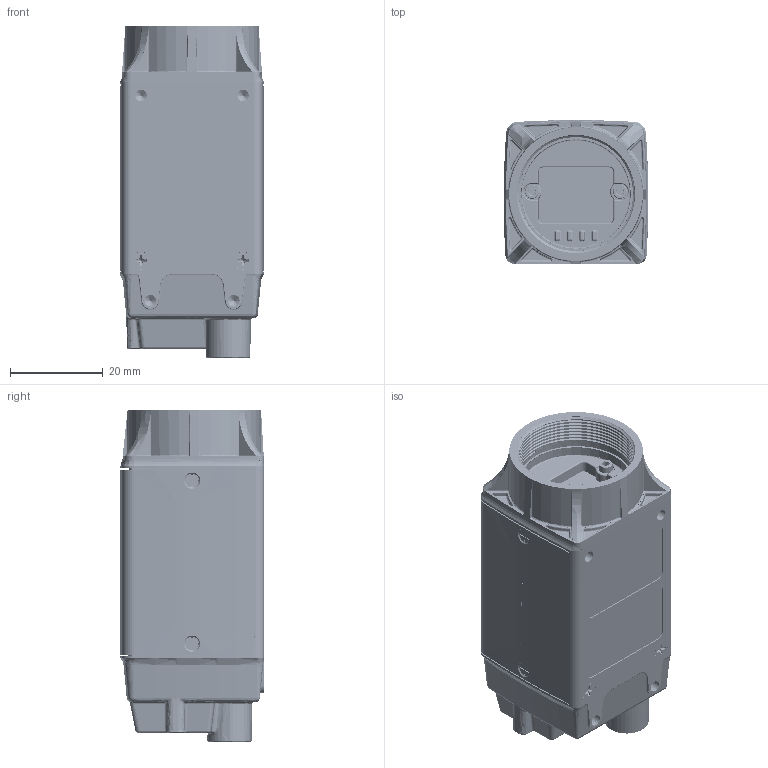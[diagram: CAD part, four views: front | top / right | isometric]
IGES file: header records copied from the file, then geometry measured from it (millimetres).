
Start section: SolidWorks IGES file using analytic representation for surfaces
Global section: file name: Y:\IS010\IS010-06\IS010-06_04-03-15.IGS; native system: SolidWorks 2014; preprocessor: SolidWorks 2014; author: ddawkins; date: 150403.113922; units: millimetre
Bounding box: 31.22 x 31 x 71.6 mm (x, y, z)
Surface area: 26137.8 mm2 (no closed solid volume)
Topology: 0 solids, 0 shells, 3594 faces, 35892 edges, 35593 vertices
Faces by surface type: bspline 1878, revolution 1716
